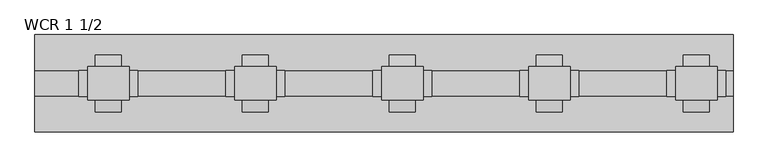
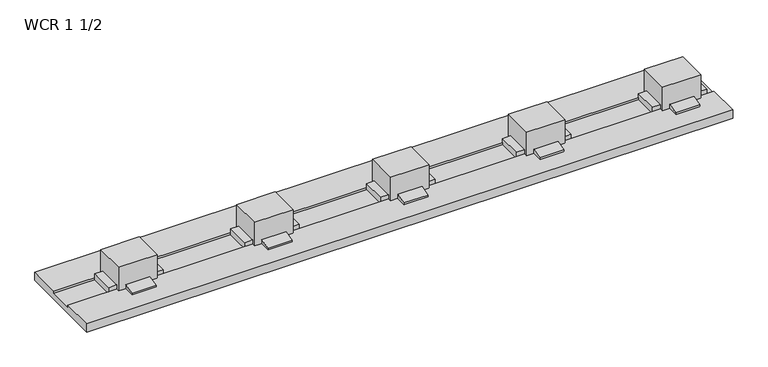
"""IFC4 building model written with IfcOpenShell, lengths in millimetres: proxy geometry, Duct-Walkercell-Wiremold : WCR 1 1/2."""

from ifc_helpers import new_model, si_unit, frame, origin, place, context, project, spatial, polyline, outline, extrude, faceted_brep, source, transform, mapped, element, save


def wcr_1_1_2_f48f9ecd(model_context):
    return source(origin(), model_context, "Body", "SolidModel", [
        faceted_brep([(2657.475, 69.85, 111.125), (2657.475, -69.85, 111.125), (2828.925, -69.85, 111.125), (2828.925, 69.85, 111.125), (2620.9625, -53.975, -9.525), (2620.9625, 53.975, -9.525), (2865.4375, 53.975, -9.525), (2865.4375, -53.975, -9.525), (2828.925, 53.975, 0.0), (2657.475, 53.975, 0.0), (2657.475, 69.85, 0.0), (2689.225, 69.85, 0.0), (2689.225, 118.2751, 0.0), (2797.175, 118.2751, 0.0), (2797.175, 69.85, 0.0), (2828.925, 69.85, 0.0), (2828.925, 53.975, 19.05), (2865.4375, 53.975, 19.05), (2620.9625, 53.975, 19.05), (2657.475, 53.975, 19.05), (2657.475, -53.975, 0.0), (2828.925, -53.975, 0.0), (2828.925, -69.85, 0.0), (2797.175, -69.85, 0.0), (2797.175, -118.2751, 0.0), (2689.225, -118.2751, 0.0), (2689.225, -69.85, 0.0), (2657.475, -69.85, 0.0), (2657.475, -53.975, 19.05), (2620.9625, -53.975, 19.05), (2865.4375, -53.975, 19.05), (2828.925, -53.975, 19.05), (2689.225, -69.85, 19.05), (2797.175, -69.85, 19.05), (2797.175, 69.85, 19.05), (2689.225, 69.85, 19.05), (2797.175, 118.2751, 7.9375), (2797.175, -118.2751, 7.9375), (2689.225, 118.2751, 7.9375), (2689.225, -118.2751, 7.9375)], [[[0, 1, 2, 3]], [[4, 5, 6, 7]], [[8, 9, 10, 11, 12, 13, 14, 15]], [[9, 8, 16, 17, 6, 5, 18, 19]], [[20, 21, 22, 23, 24, 25, 26, 27]], [[21, 20, 28, 29, 4, 7, 30, 31]], [[1, 0, 10, 9, 19, 28, 20, 27]], [[2, 1, 27, 26, 32, 33, 23, 22]], [[3, 2, 22, 21, 31, 16, 8, 15]], [[0, 3, 15, 14, 34, 35, 11, 10]], [[31, 30, 17, 16]], [[18, 29, 28, 19]], [[29, 18, 5, 4]], [[17, 30, 7, 6]], [[36, 34, 14, 13]], [[37, 24, 23, 33]], [[38, 12, 11, 35]], [[39, 32, 26, 25]], [[34, 36, 38, 35]], [[36, 13, 12, 38]], [[24, 37, 39, 25]], [[37, 33, 32, 39]]]),
        faceted_brep([(2047.875, 69.85, 111.125), (2047.875, -69.85, 111.125), (2219.325, -69.85, 111.125), (2219.325, 69.85, 111.125), (2011.3625, -53.975, -9.525), (2011.3625, 53.975, -9.525), (2255.8375, 53.975, -9.525), (2255.8375, -53.975, -9.525), (2219.325, 53.975, 0.0), (2047.875, 53.975, 0.0), (2047.875, 69.85, 0.0), (2079.625, 69.85, 0.0), (2079.625, 118.2751, 0.0), (2187.575, 118.2751, 0.0), (2187.575, 69.85, 0.0), (2219.325, 69.85, 0.0), (2219.325, 53.975, 19.05), (2255.8375, 53.975, 19.05), (2011.3625, 53.975, 19.05), (2047.875, 53.975, 19.05), (2047.875, -53.975, 0.0), (2219.325, -53.975, 0.0), (2219.325, -69.85, 0.0), (2187.575, -69.85, 0.0), (2187.575, -118.2751, 0.0), (2079.625, -118.2751, 0.0), (2079.625, -69.85, 0.0), (2047.875, -69.85, 0.0), (2047.875, -53.975, 19.05), (2011.3625, -53.975, 19.05), (2255.8375, -53.975, 19.05), (2219.325, -53.975, 19.05), (2079.625, -69.85, 19.05), (2187.575, -69.85, 19.05), (2187.575, 69.85, 19.05), (2079.625, 69.85, 19.05), (2187.575, 118.2751, 7.9375), (2187.575, -118.2751, 7.9375), (2079.625, 118.2751, 7.9375), (2079.625, -118.2751, 7.9375)], [[[0, 1, 2, 3]], [[4, 5, 6, 7]], [[8, 9, 10, 11, 12, 13, 14, 15]], [[9, 8, 16, 17, 6, 5, 18, 19]], [[20, 21, 22, 23, 24, 25, 26, 27]], [[21, 20, 28, 29, 4, 7, 30, 31]], [[1, 0, 10, 9, 19, 28, 20, 27]], [[2, 1, 27, 26, 32, 33, 23, 22]], [[3, 2, 22, 21, 31, 16, 8, 15]], [[0, 3, 15, 14, 34, 35, 11, 10]], [[31, 30, 17, 16]], [[18, 29, 28, 19]], [[29, 18, 5, 4]], [[17, 30, 7, 6]], [[36, 34, 14, 13]], [[37, 24, 23, 33]], [[38, 12, 11, 35]], [[39, 32, 26, 25]], [[34, 36, 38, 35]], [[36, 13, 12, 38]], [[24, 37, 39, 25]], [[37, 33, 32, 39]]]),
        faceted_brep([(1438.275, 69.85, 111.125), (1438.275, -69.85, 111.125), (1609.725, -69.85, 111.125), (1609.725, 69.85, 111.125), (1401.7625, -53.975, -9.525), (1401.7625, 53.975, -9.525), (1646.2375, 53.975, -9.525), (1646.2375, -53.975, -9.525), (1609.725, 53.975, 0.0), (1438.275, 53.975, 0.0), (1438.275, 69.85, 0.0), (1470.025, 69.85, 0.0), (1470.025, 118.2751, 0.0), (1577.975, 118.2751, 0.0), (1577.975, 69.85, 0.0), (1609.725, 69.85, 0.0), (1609.725, 53.975, 19.05), (1646.2375, 53.975, 19.05), (1401.7625, 53.975, 19.05), (1438.275, 53.975, 19.05), (1438.275, -53.975, 0.0), (1609.725, -53.975, 0.0), (1609.725, -69.85, 0.0), (1577.975, -69.85, 0.0), (1577.975, -118.2751, 0.0), (1470.025, -118.2751, 0.0), (1470.025, -69.85, 0.0), (1438.275, -69.85, 0.0), (1438.275, -53.975, 19.05), (1401.7625, -53.975, 19.05), (1646.2375, -53.975, 19.05), (1609.725, -53.975, 19.05), (1470.025, -69.85, 19.05), (1577.975, -69.85, 19.05), (1577.975, 69.85, 19.05), (1470.025, 69.85, 19.05), (1577.975, 118.2751, 7.9375), (1577.975, -118.2751, 7.9375), (1470.025, 118.2751, 7.9375), (1470.025, -118.2751, 7.9375)], [[[0, 1, 2, 3]], [[4, 5, 6, 7]], [[8, 9, 10, 11, 12, 13, 14, 15]], [[9, 8, 16, 17, 6, 5, 18, 19]], [[20, 21, 22, 23, 24, 25, 26, 27]], [[21, 20, 28, 29, 4, 7, 30, 31]], [[1, 0, 10, 9, 19, 28, 20, 27]], [[2, 1, 27, 26, 32, 33, 23, 22]], [[3, 2, 22, 21, 31, 16, 8, 15]], [[0, 3, 15, 14, 34, 35, 11, 10]], [[31, 30, 17, 16]], [[18, 29, 28, 19]], [[29, 18, 5, 4]], [[17, 30, 7, 6]], [[36, 34, 14, 13]], [[37, 24, 23, 33]], [[38, 12, 11, 35]], [[39, 32, 26, 25]], [[34, 36, 38, 35]], [[36, 13, 12, 38]], [[24, 37, 39, 25]], [[37, 33, 32, 39]]]),
        faceted_brep([(828.675, 69.85, 111.125), (828.675, -69.85, 111.125), (1000.125, -69.85, 111.125), (1000.125, 69.85, 111.125), (792.1625, -53.975, -9.525), (792.1625, 53.975, -9.525), (1036.6375, 53.975, -9.525), (1036.6375, -53.975, -9.525), (1000.125, 53.975, 0.0), (828.675, 53.975, 0.0), (828.675, 69.85, 0.0), (860.425, 69.85, 0.0), (860.425, 118.2751, 0.0), (968.375, 118.2751, 0.0), (968.375, 69.85, 0.0), (1000.125, 69.85, 0.0), (1000.125, 53.975, 19.05), (1036.6375, 53.975, 19.05), (792.1625, 53.975, 19.05), (828.675, 53.975, 19.05), (828.675, -53.975, 0.0), (1000.125, -53.975, 0.0), (1000.125, -69.85, 0.0), (968.375, -69.85, 0.0), (968.375, -118.2751, 0.0), (860.425, -118.2751, 0.0), (860.425, -69.85, 0.0), (828.675, -69.85, 0.0), (828.675, -53.975, 19.05), (792.1625, -53.975, 19.05), (1036.6375, -53.975, 19.05), (1000.125, -53.975, 19.05), (860.425, -69.85, 19.05), (968.375, -69.85, 19.05), (968.375, 69.85, 19.05), (860.425, 69.85, 19.05), (968.375, 118.2751, 7.9375), (968.375, -118.2751, 7.9375), (860.425, 118.2751, 7.9375), (860.425, -118.2751, 7.9375)], [[[0, 1, 2, 3]], [[4, 5, 6, 7]], [[8, 9, 10, 11, 12, 13, 14, 15]], [[9, 8, 16, 17, 6, 5, 18, 19]], [[20, 21, 22, 23, 24, 25, 26, 27]], [[21, 20, 28, 29, 4, 7, 30, 31]], [[1, 0, 10, 9, 19, 28, 20, 27]], [[2, 1, 27, 26, 32, 33, 23, 22]], [[3, 2, 22, 21, 31, 16, 8, 15]], [[0, 3, 15, 14, 34, 35, 11, 10]], [[31, 30, 17, 16]], [[18, 29, 28, 19]], [[29, 18, 5, 4]], [[17, 30, 7, 6]], [[36, 34, 14, 13]], [[37, 24, 23, 33]], [[38, 12, 11, 35]], [[39, 32, 26, 25]], [[34, 36, 38, 35]], [[36, 13, 12, 38]], [[24, 37, 39, 25]], [[37, 33, 32, 39]]]),
        faceted_brep([(219.075, 69.85, 111.125), (219.075, -69.85, 111.125), (390.525, -69.85, 111.125), (390.525, 69.85, 111.125), (182.5625, -53.975, -9.525), (182.5625, 53.975, -9.525), (427.0375, 53.975, -9.525), (427.0375, -53.975, -9.525), (390.525, 53.975, 0.0), (219.075, 53.975, 0.0), (219.075, 69.85, 0.0), (250.825, 69.85, 0.0), (250.825, 118.2751, 0.0), (358.775, 118.2751, 0.0), (358.775, 69.85, 0.0), (390.525, 69.85, 0.0), (390.525, 53.975, 19.05), (427.0375, 53.975, 19.05), (182.5625, 53.975, 19.05), (219.075, 53.975, 19.05), (219.075, -53.975, 0.0), (390.525, -53.975, 0.0), (390.525, -69.85, 0.0), (358.775, -69.85, 0.0), (358.775, -118.2751, 0.0), (250.825, -118.2751, 0.0), (250.825, -69.85, 0.0), (219.075, -69.85, 0.0), (219.075, -53.975, 19.05), (182.5625, -53.975, 19.05), (427.0375, -53.975, 19.05), (390.525, -53.975, 19.05), (250.825, -69.85, 19.05), (358.775, -69.85, 19.05), (358.775, 69.85, 19.05), (250.825, 69.85, 19.05), (358.775, 118.2751, 7.9375), (358.775, -118.2751, 7.9375), (250.825, 118.2751, 7.9375), (250.825, -118.2751, 7.9375)], [[[0, 1, 2, 3]], [[4, 5, 6, 7]], [[8, 9, 10, 11, 12, 13, 14, 15]], [[9, 8, 16, 17, 6, 5, 18, 19]], [[20, 21, 22, 23, 24, 25, 26, 27]], [[21, 20, 28, 29, 4, 7, 30, 31]], [[1, 0, 10, 9, 19, 28, 20, 27]], [[2, 1, 27, 26, 32, 33, 23, 22]], [[3, 2, 22, 21, 31, 16, 8, 15]], [[0, 3, 15, 14, 34, 35, 11, 10]], [[31, 30, 17, 16]], [[18, 29, 28, 19]], [[29, 18, 5, 4]], [[17, 30, 7, 6]], [[36, 34, 14, 13]], [[37, 24, 23, 33]], [[38, 12, 11, 35]], [[39, 32, 26, 25]], [[34, 36, 38, 35]], [[36, 13, 12, 38]], [[24, 37, 39, 25]], [[37, 33, 32, 39]]]),
        extrude(outline(polyline([(-53.975, 0.0), (-53.975, -9.525), (53.975, -9.525), (53.975, 0.0), (201.6125, 0.0), (201.6125, -38.1), (-201.6125, -38.1), (-201.6125, 0.0), (-53.975, 0.0)])), frame((0.0, 0.0, 0.0), z_axis=(1.0, 0.0, 0.0), x_axis=(0.0, 1.0, 0.0)), (0.0, 0.0, 1.0), 2895.6),
    ])


if __name__ == "__main__":
    model = new_model("IFC4")
    model_context = context("Model", 3, world=origin())
    ifc_project = project(units=[si_unit("LENGTHUNIT", "METRE", prefix="MILLI")], contexts=[model_context])
    site = spatial("IfcSite", under=ifc_project)
    building = spatial("IfcBuilding", under=site)
    placement = place(None, origin())
    wcr_1_1_2_shape = wcr_1_1_2_f48f9ecd(model_context)
    element("IfcBuildingElementProxy", 1, Name="Duct-Walkercell-Wiremold : WCR 1 1/2", ObjectType="Duct-Walkercell-Wiremold : WCR 1 1/2", at=placement, inside=building, context=model_context, shape_type="MappedRepresentation", body=[
        mapped(wcr_1_1_2_shape, transform((0.0, 0.0, 0.0), x_axis=(1.0, 0.0, 0.0), y_axis=(0.0, 1.0, 0.0), z_axis=(0.0, 0.0, 1.0))),
    ])
    save(model, "model.ifc")
